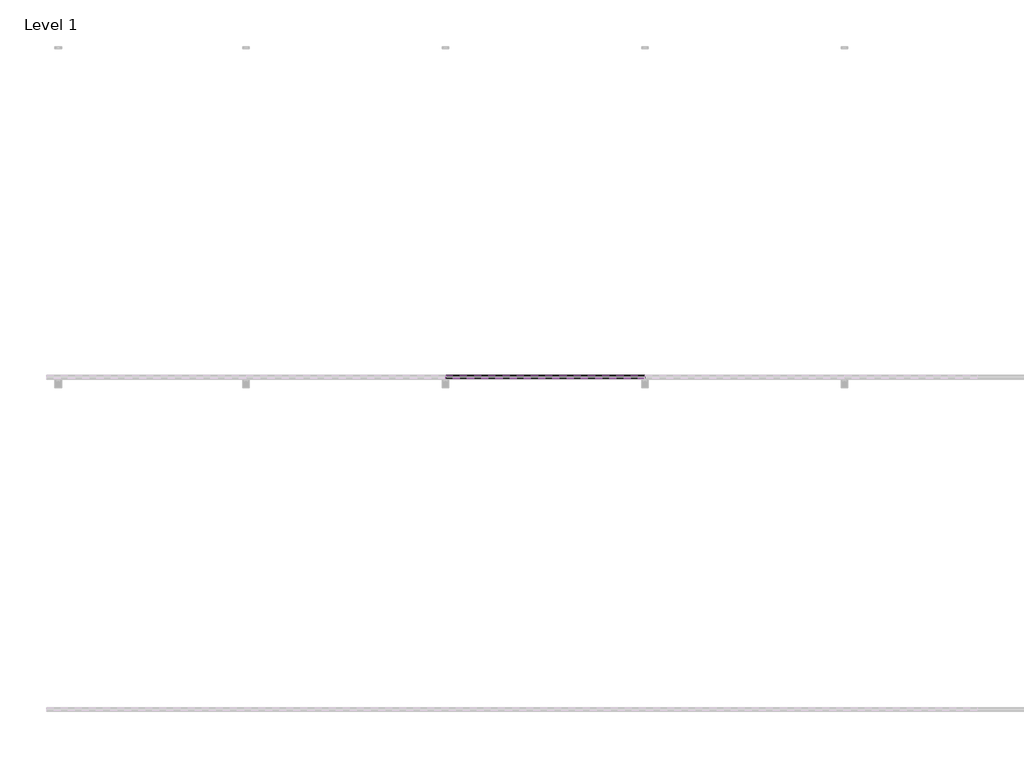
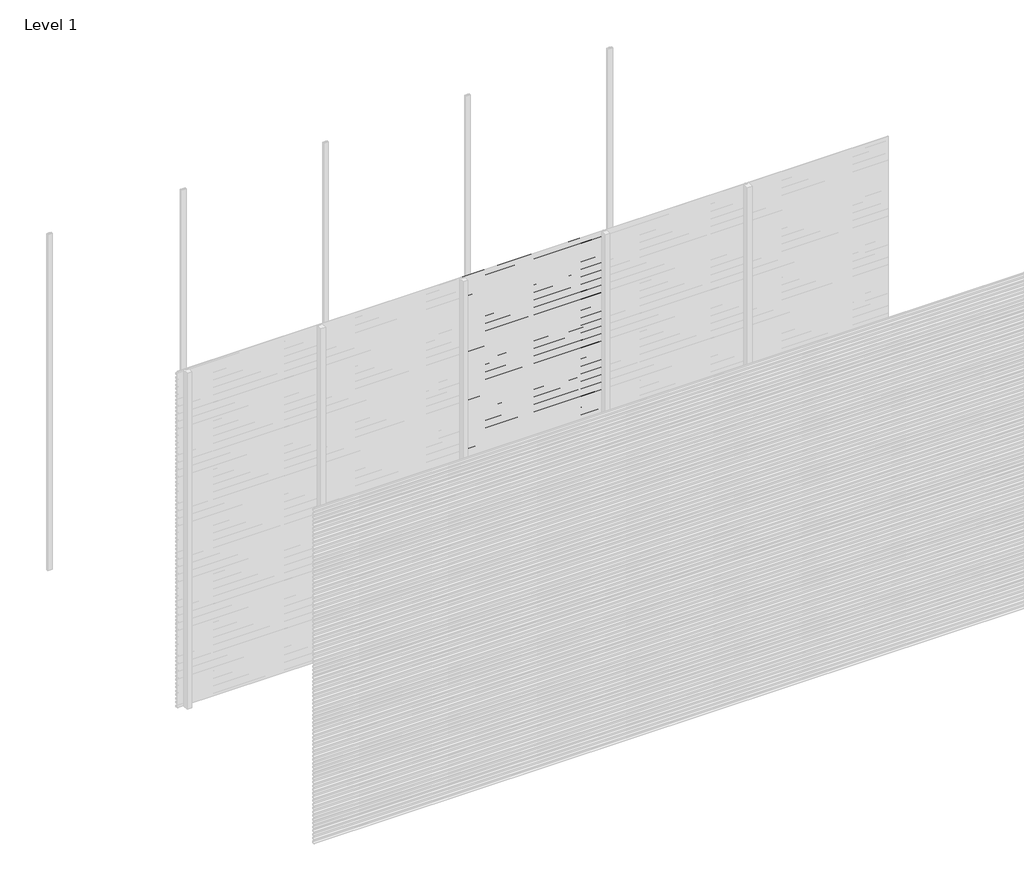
# One storey, part 37 of 77: 72 proxies.
"""IFC4 building model written with IfcOpenShell, lengths in millimetres."""

import ifcopenshell
import ifcopenshell.guid

model = None  # the IFC model being written
_history = None  # IfcOwnerHistory: only IFC2X3 demands one
_inside = {}  # id of a spatial element -> (the spatial element, [elements in it])
_under = {}  # id of a project, library or spatial element -> (it, [spatial elements below it])
_declared = {}  # id of a project -> (the project, [libraries it declares])
_typed = {}  # id of a type object -> (the type object, [elements of that type])
_made_of = {}  # id of a material, layer set ... -> (it, [elements and type objects made of it])


def new_model(schema):
    """Start an empty IFC model of exactly this schema.

    Asked for "IFC4X3", IfcOpenShell would pick the latest addendum, in which some entities
    have other attributes; the version numbers below select the first issue.
    IFC2X3 requires an IfcOwnerHistory on every rooted entity: one is made here for all.
    """
    global model, _history
    if schema == "IFC4X3":
        model = ifcopenshell.file(schema_version=(4, 3, 0, 0))
    else:
        model = ifcopenshell.file(schema=schema)
    _inside.clear()
    _under.clear()
    _declared.clear()
    _typed.clear()
    _made_of.clear()
    _history = None
    if model.schema == "IFC2X3":
        org = make("IfcOrganization", Name="unknown")
        user = make(
            "IfcPersonAndOrganization",
            ThePerson=make("IfcPerson", FamilyName="unknown"),
            TheOrganization=org,
        )
        app = make(
            "IfcApplication",
            ApplicationDeveloper=org,
            Version="unknown",
            ApplicationFullName="unknown",
            ApplicationIdentifier="unknown",
        )
        _history = make(
            "IfcOwnerHistory",
            OwningUser=user,
            OwningApplication=app,
            ChangeAction="ADDED",
            CreationDate=0,
        )
    return model


def make(cls, **values):
    """One entity of the class cls with the attributes given. An attribute that is None is left unset."""
    return model.create_entity(
        cls, **{name: value for name, value in values.items() if value is not None}
    )


def rooted(cls, **values):
    """An entity with a GlobalId (a new one), such as an element, a storey or a relation."""
    return make(cls, GlobalId=ifcopenshell.guid.new(), OwnerHistory=_history, **values)


def si_unit(unit_type, name, prefix=None):
    """IfcSIUnit, for example si_unit("LENGTHUNIT", "METRE", prefix="MILLI")."""
    return make("IfcSIUnit", UnitType=unit_type, Prefix=prefix, Name=name)


def assignment(units):
    """IfcUnitAssignment: the units of a project."""
    return None if units is None else make("IfcUnitAssignment", Units=units)


def point(xyz):
    """IfcCartesianPoint."""
    return None if xyz is None else make("IfcCartesianPoint", Coordinates=xyz)


def direction(xyz):
    """IfcDirection."""
    return None if xyz is None else make("IfcDirection", DirectionRatios=xyz)


def frame(location, z_axis=None, x_axis=None):
    """IfcAxis2Placement3D, a coordinate frame: its origin and axes. An axis left out is left unset."""
    return make(
        "IfcAxis2Placement3D",
        Location=point(location),
        Axis=direction(z_axis),
        RefDirection=direction(x_axis),
    )


def origin():
    """The frame at (0, 0, 0) with its axes left unset."""
    return frame((0.0, 0.0, 0.0))


def place(relative_to, where):
    """IfcLocalPlacement: puts the frame where relative to a parent placement (None: the world)."""
    return make(
        "IfcLocalPlacement", PlacementRelTo=relative_to, RelativePlacement=where
    )


def context(
    kind, dimensions, precision=None, world=None, true_north=None, identifier=None
):
    """IfcGeometricRepresentationContext, for example the 3D "Model" context."""
    return make(
        "IfcGeometricRepresentationContext",
        ContextIdentifier=identifier,
        ContextType=kind,
        CoordinateSpaceDimension=dimensions,
        Precision=precision,
        WorldCoordinateSystem=world,
        TrueNorth=true_north,
    )


def project(units=None, contexts=None):
    """IfcProject with its units and contexts."""
    return rooted(
        "IfcProject",
        Name="project",
        RepresentationContexts=contexts,
        UnitsInContext=assignment(units),
    )


def spatial(cls, under=None, at=None, **own):
    """A site, building, storey or space (cls), placed at a placement, below another one or the project."""
    s = rooted(cls, ObjectPlacement=at, **own)
    if under is not None:
        _under.setdefault(under.id(), (under, []))[1].append(s)
    return s


def polyline(points):
    """IfcPolyline through the points."""
    return make("IfcPolyline", Points=[point(p) for p in points])


def outline(outer, holes=None, kind="AREA"):
    """IfcArbitraryClosedProfileDef: a profile drawn as a closed curve; with holes, ...WithVoids."""
    if holes is None:
        return make("IfcArbitraryClosedProfileDef", ProfileType=kind, OuterCurve=outer)
    return make(
        "IfcArbitraryProfileDefWithVoids",
        ProfileType=kind,
        OuterCurve=outer,
        InnerCurves=holes,
    )


def extrude(swept, where, along, depth):
    """IfcExtrudedAreaSolid: the profile swept, set in the frame where, extruded along a direction by depth."""
    return make(
        "IfcExtrudedAreaSolid",
        SweptArea=swept,
        Position=where,
        ExtrudedDirection=direction(along),
        Depth=depth,
    )


def shape(context_of_items, identifier, shape_type, items):
    """IfcShapeRepresentation: the items that make up one representation, for example the "Body"."""
    return make(
        "IfcShapeRepresentation",
        ContextOfItems=context_of_items,
        RepresentationIdentifier=identifier,
        RepresentationType=shape_type,
        Items=items,
    )


def made_of(thing, what):
    """Note that an element or type object is made of a material, layer set ...; save() writes the relation."""
    if what is not None:
        _made_of.setdefault(what.id(), (what, []))[1].append(thing)
    return thing


def element(
    cls,
    number,
    at=None,
    inside=None,
    cuts=None,
    type_object=None,
    material=None,
    context=None,
    identifier="Body",
    shape_type=None,
    held_by="IfcProductDefinitionShape",
    body=None,
    shapes=None,
    **own,
):
    """One element of the class cls, such as IfcWall. Its Tag is "e" and its number.

    at: its placement. inside: the storey or other place that contains it. cuts: it is an
    opening in that element (IfcRelVoidsElement). A single representation is given by context,
    identifier, shape_type and body (its items); several are given by shapes. held_by: the class
    of the entity that holds the representations. save() writes the other relations.
    """
    e = rooted(cls, Tag="e%d" % number, ObjectPlacement=at, **own)
    if body is not None:
        shapes = [shape(context, identifier, shape_type, body)]
    if shapes is not None:
        e.Representation = make(held_by, Representations=shapes)
    if inside is not None:
        _inside.setdefault(inside.id(), (inside, []))[1].append(e)
    if cuts is not None:
        rooted(
            "IfcRelVoidsElement", RelatingBuildingElement=cuts, RelatedOpeningElement=e
        )
    if type_object is not None:
        _typed.setdefault(type_object.id(), (type_object, []))[1].append(e)
    return made_of(e, material)


def aggregate(whole, parts):
    """IfcRelAggregates: a whole, such as a stair, and the parts it consists of."""
    return rooted("IfcRelAggregates", RelatingObject=whole, RelatedObjects=parts)


def save(model, path):
    """Write the relations noted so far, then the file.

    IfcRelAggregates (storeys below a building ...), IfcRelContainedInSpatialStructure (elements
    in a storey), IfcRelDefinesByType, IfcRelAssociatesMaterial and IfcRelDeclares: one each for
    every whole, place, type object, material and project.
    """
    for whole, parts in _under.values():
        aggregate(whole, parts)
    for where, things in _inside.values():
        rooted(
            "IfcRelContainedInSpatialStructure",
            RelatedElements=things,
            RelatingStructure=where,
        )
    for kind, things in _typed.values():
        rooted("IfcRelDefinesByType", RelatedObjects=things, RelatingType=kind)
    for what, things in _made_of.values():
        rooted("IfcRelAssociatesMaterial", RelatedObjects=things, RelatingMaterial=what)
    for by, libraries in _declared.values():
        rooted("IfcRelDeclares", RelatingContext=by, RelatedDefinitions=libraries)
    model.write(path)


model = new_model("IFC4")

# Units and contexts
model_context = context("Model", 3, world=origin())
ifc_project = project(units=[si_unit("LENGTHUNIT", "METRE", prefix="MILLI")], contexts=[model_context])

# Site, building, storey
site = spatial("IfcSite", under=ifc_project)
building = spatial("IfcBuilding", under=site)
storey = spatial("IfcBuildingStorey", under=building, Name="Level 1", Elevation=0.0)

# Proxies
placement = place(None, origin())
element("IfcBuildingElementProxy", 1, Name="Wall Sweeps", at=placement, inside=storey, context=model_context, shape_type="SweptSolid", body=[
    extrude(outline(polyline([(-29978.6, 408.4359887), (-29998.0, 419.6366691), (-29998.0, 432.9), (-29997.0, 432.9), (-29997.0, 420.2191057), (-29977.6, 409.0185105), (-29977.6, 395.4185105), (-29978.6, 396.9953129), (-29978.6, 402.8032062), (-29995.9773817, 394.7), (-29996.4, 395.6063078), (-29978.6, 403.9065841), (-29978.6, 408.4359887)])), frame((1200.0, 0.0, 0.0), z_axis=(1.0, 0.0, 0.0), x_axis=(0.0, 1.0, 0.0)), (0.0, 0.0, 1.0), 1200.0),
])
element("IfcBuildingElementProxy", 2, Name="Wall Sweeps", at=placement, inside=storey, context=model_context, shape_type="SweptSolid", body=[
    extrude(outline(polyline([(-29978.6, 375.1359887), (-29998.0, 386.3366691), (-29998.0, 399.6), (-29997.0, 399.6), (-29997.0, 386.9191057), (-29977.6, 375.7185105), (-29977.6, 362.1185105), (-29978.6, 363.6953129), (-29978.6, 369.5032062), (-29995.9773817, 361.4), (-29996.4, 362.3063078), (-29978.6, 370.6065841), (-29978.6, 375.1359887)])), frame((1200.0, 0.0, 0.0), z_axis=(1.0, 0.0, 0.0), x_axis=(0.0, 1.0, 0.0)), (0.0, 0.0, 1.0), 1200.0),
])
element("IfcBuildingElementProxy", 3, Name="Wall Sweeps", at=placement, inside=storey, context=model_context, shape_type="SweptSolid", body=[
    extrude(outline(polyline([(-29978.6, 341.8359887), (-29998.0, 353.0366691), (-29998.0, 366.3), (-29997.0, 366.3), (-29997.0, 353.6191057), (-29977.6, 342.4185105), (-29977.6, 328.8185105), (-29978.6, 330.3953129), (-29978.6, 336.2032062), (-29995.9773817, 328.1), (-29996.4, 329.0063078), (-29978.6, 337.3065841), (-29978.6, 341.8359887)])), frame((1200.0, 0.0, 0.0), z_axis=(1.0, 0.0, 0.0), x_axis=(0.0, 1.0, 0.0)), (0.0, 0.0, 1.0), 1200.0),
])
element("IfcBuildingElementProxy", 4, Name="Wall Sweeps", at=placement, inside=storey, context=model_context, shape_type="SweptSolid", body=[
    extrude(outline(polyline([(-29978.6, 308.5359887), (-29998.0, 319.7366691), (-29998.0, 333.0), (-29997.0, 333.0), (-29997.0, 320.3191057), (-29977.6, 309.1185105), (-29977.6, 295.5185105), (-29978.6, 297.0953129), (-29978.6, 302.9032062), (-29995.9773817, 294.8), (-29996.4, 295.7063078), (-29978.6, 304.0065841), (-29978.6, 308.5359887)])), frame((1200.0, 0.0, 0.0), z_axis=(1.0, 0.0, 0.0), x_axis=(0.0, 1.0, 0.0)), (0.0, 0.0, 1.0), 1200.0),
])
element("IfcBuildingElementProxy", 5, Name="Wall Sweeps", at=placement, inside=storey, context=model_context, shape_type="SweptSolid", body=[
    extrude(outline(polyline([(-29978.6, 275.2359887), (-29998.0, 286.4366691), (-29998.0, 299.7), (-29997.0, 299.7), (-29997.0, 287.0191057), (-29977.6, 275.8185105), (-29977.6, 262.2185105), (-29978.6, 263.7953129), (-29978.6, 269.6032062), (-29995.9773817, 261.5), (-29996.4, 262.4063078), (-29978.6, 270.7065841), (-29978.6, 275.2359887)])), frame((1200.0, 0.0, 0.0), z_axis=(1.0, 0.0, 0.0), x_axis=(0.0, 1.0, 0.0)), (0.0, 0.0, 1.0), 1200.0),
])
element("IfcBuildingElementProxy", 6, Name="Wall Sweeps", at=placement, inside=storey, context=model_context, shape_type="SweptSolid", body=[
    extrude(outline(polyline([(-29978.6, 241.9359887), (-29998.0, 253.1366691), (-29998.0, 266.4), (-29997.0, 266.4), (-29997.0, 253.7191057), (-29977.6, 242.5185105), (-29977.6, 228.9185105), (-29978.6, 230.4953129), (-29978.6, 236.3032062), (-29995.9773817, 228.2), (-29996.4, 229.1063078), (-29978.6, 237.4065841), (-29978.6, 241.9359887)])), frame((1200.0, 0.0, 0.0), z_axis=(1.0, 0.0, 0.0), x_axis=(0.0, 1.0, 0.0)), (0.0, 0.0, 1.0), 1200.0),
])
element("IfcBuildingElementProxy", 7, Name="Wall Sweeps", at=placement, inside=storey, context=model_context, shape_type="SweptSolid", body=[
    extrude(outline(polyline([(-29978.6, 208.6359887), (-29998.0, 219.8366691), (-29998.0, 233.1), (-29997.0, 233.1), (-29997.0, 220.4191057), (-29977.6, 209.2185105), (-29977.6, 195.6185105), (-29978.6, 197.1953129), (-29978.6, 203.0032062), (-29995.9773817, 194.9), (-29996.4, 195.8063078), (-29978.6, 204.1065841), (-29978.6, 208.6359887)])), frame((1200.0, 0.0, 0.0), z_axis=(1.0, 0.0, 0.0), x_axis=(0.0, 1.0, 0.0)), (0.0, 0.0, 1.0), 1200.0),
])
element("IfcBuildingElementProxy", 8, Name="Wall Sweeps", at=placement, inside=storey, context=model_context, shape_type="SweptSolid", body=[
    extrude(outline(polyline([(-29978.6, 175.3359887), (-29998.0, 186.5366691), (-29998.0, 199.8), (-29997.0, 199.8), (-29997.0, 187.1191057), (-29977.6, 175.9185105), (-29977.6, 162.3185105), (-29978.6, 163.8953129), (-29978.6, 169.7032062), (-29995.9773817, 161.6), (-29996.4, 162.5063078), (-29978.6, 170.8065841), (-29978.6, 175.3359887)])), frame((1200.0, 0.0, 0.0), z_axis=(1.0, 0.0, 0.0), x_axis=(0.0, 1.0, 0.0)), (0.0, 0.0, 1.0), 1200.0),
])
element("IfcBuildingElementProxy", 9, Name="Wall Sweeps", at=placement, inside=storey, context=model_context, shape_type="SweptSolid", body=[
    extrude(outline(polyline([(-29978.6, 142.0359887), (-29998.0, 153.2366691), (-29998.0, 166.5), (-29997.0, 166.5), (-29997.0, 153.8191057), (-29977.6, 142.6185105), (-29977.6, 129.0185105), (-29978.6, 130.5953129), (-29978.6, 136.4032062), (-29995.9773817, 128.3), (-29996.4, 129.2063078), (-29978.6, 137.5065841), (-29978.6, 142.0359887)])), frame((1200.0, 0.0, 0.0), z_axis=(1.0, 0.0, 0.0), x_axis=(0.0, 1.0, 0.0)), (0.0, 0.0, 1.0), 1200.0),
])
element("IfcBuildingElementProxy", 10, Name="Wall Sweeps", at=placement, inside=storey, context=model_context, shape_type="SweptSolid", body=[
    extrude(outline(polyline([(-29978.6, 108.7359887), (-29998.0, 119.9366691), (-29998.0, 133.2), (-29997.0, 133.2), (-29997.0, 120.5191057), (-29977.6, 109.3185105), (-29977.6, 95.7185105), (-29978.6, 97.2953129), (-29978.6, 103.1032062), (-29995.9773817, 95.0), (-29996.4, 95.9063078), (-29978.6, 104.2065841), (-29978.6, 108.7359887)])), frame((1200.0, 0.0, 0.0), z_axis=(1.0, 0.0, 0.0), x_axis=(0.0, 1.0, 0.0)), (0.0, 0.0, 1.0), 1200.0),
])
element("IfcBuildingElementProxy", 11, Name="Wall Sweeps", at=placement, inside=storey, context=model_context, shape_type="SweptSolid", body=[
    extrude(outline(polyline([(-29978.6, 75.4359887), (-29998.0, 86.6366691), (-29998.0, 99.9), (-29997.0, 99.9), (-29997.0, 87.2191057), (-29977.6, 76.0185105), (-29977.6, 62.4185105), (-29978.6, 63.9953129), (-29978.6, 69.8032062), (-29995.9773817, 61.7), (-29996.4, 62.6063078), (-29978.6, 70.9065841), (-29978.6, 75.4359887)])), frame((1200.0, 0.0, 0.0), z_axis=(1.0, 0.0, 0.0), x_axis=(0.0, 1.0, 0.0)), (0.0, 0.0, 1.0), 1200.0),
])
element("IfcBuildingElementProxy", 12, Name="Wall Sweeps", at=placement, inside=storey, context=model_context, shape_type="SweptSolid", body=[
    extrude(outline(polyline([(-29978.6, 42.1359887), (-29998.0, 53.3366691), (-29998.0, 66.6), (-29997.0, 66.6), (-29997.0, 53.9191057), (-29977.6, 42.7185105), (-29977.6, 29.1185105), (-29978.6, 30.6953129), (-29978.6, 36.5032062), (-29995.9773817, 28.4), (-29996.4, 29.3063078), (-29978.6, 37.6065841), (-29978.6, 42.1359887)])), frame((1200.0, 0.0, 0.0), z_axis=(1.0, 0.0, 0.0), x_axis=(0.0, 1.0, 0.0)), (0.0, 0.0, 1.0), 1200.0),
])
element("IfcBuildingElementProxy", 13, Name="Wall Sweeps", at=placement, inside=storey, context=model_context, shape_type="SweptSolid", body=[
    extrude(outline(polyline([(-29978.6, 8.8359887), (-29998.0, 20.0366691), (-29998.0, 33.3), (-29997.0, 33.3), (-29997.0, 20.6191057), (-29977.6, 9.4185105), (-29977.6, -4.1814895), (-29978.6, -2.6046871), (-29978.6, 3.2032062), (-29995.9773817, -4.9), (-29996.4, -3.9936922), (-29978.6, 4.3065841), (-29978.6, 8.8359887)])), frame((1200.0, 0.0, 0.0), z_axis=(1.0, 0.0, 0.0), x_axis=(0.0, 1.0, 0.0)), (0.0, 0.0, 1.0), 1200.0),
])
element("IfcBuildingElementProxy", 14, Name="Wall Sweeps", at=placement, inside=storey, context=model_context, shape_type="SweptSolid", body=[
    extrude(outline(polyline([(-29978.6, 2972.5359887), (-29998.0, 2983.7366691), (-29998.0, 2997.0), (-29997.0, 2997.0), (-29997.0, 2984.3191057), (-29977.6, 2973.1185105), (-29977.6, 2959.5185105), (-29978.6, 2961.0953129), (-29978.6, 2966.9032062), (-29995.9773817, 2958.8), (-29996.4, 2959.7063078), (-29978.6, 2968.0065841), (-29978.6, 2972.5359887)])), frame((2400.0, 0.0, 0.0), z_axis=(1.0, 0.0, 0.0), x_axis=(0.0, 1.0, 0.0)), (0.0, 0.0, 1.0), 1200.0),
])
element("IfcBuildingElementProxy", 15, Name="Wall Sweeps", at=placement, inside=storey, context=model_context, shape_type="SweptSolid", body=[
    extrude(outline(polyline([(-29978.6, 2939.2359887), (-29998.0, 2950.4366691), (-29998.0, 2963.7), (-29997.0, 2963.7), (-29997.0, 2951.0191057), (-29977.6, 2939.8185105), (-29977.6, 2926.2185105), (-29978.6, 2927.7953129), (-29978.6, 2933.6032062), (-29995.9773817, 2925.5), (-29996.4, 2926.4063078), (-29978.6, 2934.7065841), (-29978.6, 2939.2359887)])), frame((2400.0, 0.0, 0.0), z_axis=(1.0, 0.0, 0.0), x_axis=(0.0, 1.0, 0.0)), (0.0, 0.0, 1.0), 1200.0),
])
element("IfcBuildingElementProxy", 16, Name="Wall Sweeps", at=placement, inside=storey, context=model_context, shape_type="SweptSolid", body=[
    extrude(outline(polyline([(-29978.6, 2905.9359887), (-29998.0, 2917.1366691), (-29998.0, 2930.4), (-29997.0, 2930.4), (-29997.0, 2917.7191057), (-29977.6, 2906.5185105), (-29977.6, 2892.9185105), (-29978.6, 2894.4953129), (-29978.6, 2900.3032062), (-29995.9773817, 2892.2), (-29996.4, 2893.1063078), (-29978.6, 2901.4065841), (-29978.6, 2905.9359887)])), frame((2400.0, 0.0, 0.0), z_axis=(1.0, 0.0, 0.0), x_axis=(0.0, 1.0, 0.0)), (0.0, 0.0, 1.0), 1200.0),
])
element("IfcBuildingElementProxy", 17, Name="Wall Sweeps", at=placement, inside=storey, context=model_context, shape_type="SweptSolid", body=[
    extrude(outline(polyline([(-29978.6, 2872.6359887), (-29998.0, 2883.8366691), (-29998.0, 2897.1), (-29997.0, 2897.1), (-29997.0, 2884.4191057), (-29977.6, 2873.2185105), (-29977.6, 2859.6185105), (-29978.6, 2861.1953129), (-29978.6, 2867.0032062), (-29995.9773817, 2858.9), (-29996.4, 2859.8063078), (-29978.6, 2868.1065841), (-29978.6, 2872.6359887)])), frame((2400.0, 0.0, 0.0), z_axis=(1.0, 0.0, 0.0), x_axis=(0.0, 1.0, 0.0)), (0.0, 0.0, 1.0), 1200.0),
])
element("IfcBuildingElementProxy", 18, Name="Wall Sweeps", at=placement, inside=storey, context=model_context, shape_type="SweptSolid", body=[
    extrude(outline(polyline([(-29978.6, 2839.3359887), (-29998.0, 2850.5366691), (-29998.0, 2863.8), (-29997.0, 2863.8), (-29997.0, 2851.1191057), (-29977.6, 2839.9185105), (-29977.6, 2826.3185105), (-29978.6, 2827.8953129), (-29978.6, 2833.7032062), (-29995.9773817, 2825.6), (-29996.4, 2826.5063078), (-29978.6, 2834.8065841), (-29978.6, 2839.3359887)])), frame((2400.0, 0.0, 0.0), z_axis=(1.0, 0.0, 0.0), x_axis=(0.0, 1.0, 0.0)), (0.0, 0.0, 1.0), 1200.0),
])
element("IfcBuildingElementProxy", 19, Name="Wall Sweeps", at=placement, inside=storey, context=model_context, shape_type="SweptSolid", body=[
    extrude(outline(polyline([(-29978.6, 2806.0359887), (-29998.0, 2817.2366691), (-29998.0, 2830.5), (-29997.0, 2830.5), (-29997.0, 2817.8191057), (-29977.6, 2806.6185105), (-29977.6, 2793.0185105), (-29978.6, 2794.5953129), (-29978.6, 2800.4032062), (-29995.9773817, 2792.3), (-29996.4, 2793.2063078), (-29978.6, 2801.5065841), (-29978.6, 2806.0359887)])), frame((2400.0, 0.0, 0.0), z_axis=(1.0, 0.0, 0.0), x_axis=(0.0, 1.0, 0.0)), (0.0, 0.0, 1.0), 1200.0),
])
element("IfcBuildingElementProxy", 20, Name="Wall Sweeps", at=placement, inside=storey, context=model_context, shape_type="SweptSolid", body=[
    extrude(outline(polyline([(-29978.6, 2772.7359887), (-29998.0, 2783.9366691), (-29998.0, 2797.2), (-29997.0, 2797.2), (-29997.0, 2784.5191057), (-29977.6, 2773.3185105), (-29977.6, 2759.7185105), (-29978.6, 2761.2953129), (-29978.6, 2767.1032062), (-29995.9773817, 2759.0), (-29996.4, 2759.9063078), (-29978.6, 2768.2065841), (-29978.6, 2772.7359887)])), frame((2400.0, 0.0, 0.0), z_axis=(1.0, 0.0, 0.0), x_axis=(0.0, 1.0, 0.0)), (0.0, 0.0, 1.0), 1200.0),
])
element("IfcBuildingElementProxy", 21, Name="Wall Sweeps", at=placement, inside=storey, context=model_context, shape_type="SweptSolid", body=[
    extrude(outline(polyline([(-29978.6, 2739.4359887), (-29998.0, 2750.6366691), (-29998.0, 2763.9), (-29997.0, 2763.9), (-29997.0, 2751.2191057), (-29977.6, 2740.0185105), (-29977.6, 2726.4185105), (-29978.6, 2727.9953129), (-29978.6, 2733.8032062), (-29995.9773817, 2725.7), (-29996.4, 2726.6063078), (-29978.6, 2734.9065841), (-29978.6, 2739.4359887)])), frame((2400.0, 0.0, 0.0), z_axis=(1.0, 0.0, 0.0), x_axis=(0.0, 1.0, 0.0)), (0.0, 0.0, 1.0), 1200.0),
])
element("IfcBuildingElementProxy", 22, Name="Wall Sweeps", at=placement, inside=storey, context=model_context, shape_type="SweptSolid", body=[
    extrude(outline(polyline([(-29978.6, 2706.1359887), (-29998.0, 2717.3366691), (-29998.0, 2730.6), (-29997.0, 2730.6), (-29997.0, 2717.9191057), (-29977.6, 2706.7185105), (-29977.6, 2693.1185105), (-29978.6, 2694.6953129), (-29978.6, 2700.5032062), (-29995.9773817, 2692.4), (-29996.4, 2693.3063078), (-29978.6, 2701.6065841), (-29978.6, 2706.1359887)])), frame((2400.0, 0.0, 0.0), z_axis=(1.0, 0.0, 0.0), x_axis=(0.0, 1.0, 0.0)), (0.0, 0.0, 1.0), 1200.0),
])
element("IfcBuildingElementProxy", 23, Name="Wall Sweeps", at=placement, inside=storey, context=model_context, shape_type="SweptSolid", body=[
    extrude(outline(polyline([(-29978.6, 2672.8359887), (-29998.0, 2684.0366691), (-29998.0, 2697.3), (-29997.0, 2697.3), (-29997.0, 2684.6191057), (-29977.6, 2673.4185105), (-29977.6, 2659.8185105), (-29978.6, 2661.3953129), (-29978.6, 2667.2032062), (-29995.9773817, 2659.1), (-29996.4, 2660.0063078), (-29978.6, 2668.3065841), (-29978.6, 2672.8359887)])), frame((2400.0, 0.0, 0.0), z_axis=(1.0, 0.0, 0.0), x_axis=(0.0, 1.0, 0.0)), (0.0, 0.0, 1.0), 1200.0),
])
element("IfcBuildingElementProxy", 24, Name="Wall Sweeps", at=placement, inside=storey, context=model_context, shape_type="SweptSolid", body=[
    extrude(outline(polyline([(-29978.6, 2639.5359887), (-29998.0, 2650.7366691), (-29998.0, 2664.0), (-29997.0, 2664.0), (-29997.0, 2651.3191057), (-29977.6, 2640.1185105), (-29977.6, 2626.5185105), (-29978.6, 2628.0953129), (-29978.6, 2633.9032062), (-29995.9773817, 2625.8), (-29996.4, 2626.7063078), (-29978.6, 2635.0065841), (-29978.6, 2639.5359887)])), frame((2400.0, 0.0, 0.0), z_axis=(1.0, 0.0, 0.0), x_axis=(0.0, 1.0, 0.0)), (0.0, 0.0, 1.0), 1200.0),
])
element("IfcBuildingElementProxy", 25, Name="Wall Sweeps", at=placement, inside=storey, context=model_context, shape_type="SweptSolid", body=[
    extrude(outline(polyline([(-29978.6, 2606.2359887), (-29998.0, 2617.4366691), (-29998.0, 2630.7), (-29997.0, 2630.7), (-29997.0, 2618.0191057), (-29977.6, 2606.8185105), (-29977.6, 2593.2185105), (-29978.6, 2594.7953129), (-29978.6, 2600.6032062), (-29995.9773817, 2592.5), (-29996.4, 2593.4063078), (-29978.6, 2601.7065841), (-29978.6, 2606.2359887)])), frame((2400.0, 0.0, 0.0), z_axis=(1.0, 0.0, 0.0), x_axis=(0.0, 1.0, 0.0)), (0.0, 0.0, 1.0), 1200.0),
])
element("IfcBuildingElementProxy", 26, Name="Wall Sweeps", at=placement, inside=storey, context=model_context, shape_type="SweptSolid", body=[
    extrude(outline(polyline([(-29978.6, 2572.9359887), (-29998.0, 2584.1366691), (-29998.0, 2597.4), (-29997.0, 2597.4), (-29997.0, 2584.7191057), (-29977.6, 2573.5185105), (-29977.6, 2559.9185105), (-29978.6, 2561.4953129), (-29978.6, 2567.3032062), (-29995.9773817, 2559.2), (-29996.4, 2560.1063078), (-29978.6, 2568.4065841), (-29978.6, 2572.9359887)])), frame((2400.0, 0.0, 0.0), z_axis=(1.0, 0.0, 0.0), x_axis=(0.0, 1.0, 0.0)), (0.0, 0.0, 1.0), 1200.0),
])
element("IfcBuildingElementProxy", 27, Name="Wall Sweeps", at=placement, inside=storey, context=model_context, shape_type="SweptSolid", body=[
    extrude(outline(polyline([(-29978.6, 2539.6359887), (-29998.0, 2550.8366691), (-29998.0, 2564.1), (-29997.0, 2564.1), (-29997.0, 2551.4191057), (-29977.6, 2540.2185105), (-29977.6, 2526.6185105), (-29978.6, 2528.1953129), (-29978.6, 2534.0032062), (-29995.9773817, 2525.9), (-29996.4, 2526.8063078), (-29978.6, 2535.1065841), (-29978.6, 2539.6359887)])), frame((2400.0, 0.0, 0.0), z_axis=(1.0, 0.0, 0.0), x_axis=(0.0, 1.0, 0.0)), (0.0, 0.0, 1.0), 1200.0),
])
element("IfcBuildingElementProxy", 28, Name="Wall Sweeps", at=placement, inside=storey, context=model_context, shape_type="SweptSolid", body=[
    extrude(outline(polyline([(-29978.6, 2506.3359887), (-29998.0, 2517.5366691), (-29998.0, 2530.8), (-29997.0, 2530.8), (-29997.0, 2518.1191057), (-29977.6, 2506.9185105), (-29977.6, 2493.3185105), (-29978.6, 2494.8953129), (-29978.6, 2500.7032062), (-29995.9773817, 2492.6), (-29996.4, 2493.5063078), (-29978.6, 2501.8065841), (-29978.6, 2506.3359887)])), frame((2400.0, 0.0, 0.0), z_axis=(1.0, 0.0, 0.0), x_axis=(0.0, 1.0, 0.0)), (0.0, 0.0, 1.0), 1200.0),
])
element("IfcBuildingElementProxy", 29, Name="Wall Sweeps", at=placement, inside=storey, context=model_context, shape_type="SweptSolid", body=[
    extrude(outline(polyline([(-29978.6, 2473.0359887), (-29998.0, 2484.2366691), (-29998.0, 2497.5), (-29997.0, 2497.5), (-29997.0, 2484.8191057), (-29977.6, 2473.6185105), (-29977.6, 2460.0185105), (-29978.6, 2461.5953129), (-29978.6, 2467.4032062), (-29995.9773817, 2459.3), (-29996.4, 2460.2063078), (-29978.6, 2468.5065841), (-29978.6, 2473.0359887)])), frame((2400.0, 0.0, 0.0), z_axis=(1.0, 0.0, 0.0), x_axis=(0.0, 1.0, 0.0)), (0.0, 0.0, 1.0), 1200.0),
])
element("IfcBuildingElementProxy", 30, Name="Wall Sweeps", at=placement, inside=storey, context=model_context, shape_type="SweptSolid", body=[
    extrude(outline(polyline([(-29978.6, 2439.7359887), (-29998.0, 2450.9366691), (-29998.0, 2464.2), (-29997.0, 2464.2), (-29997.0, 2451.5191057), (-29977.6, 2440.3185105), (-29977.6, 2426.7185105), (-29978.6, 2428.2953129), (-29978.6, 2434.1032062), (-29995.9773817, 2426.0), (-29996.4, 2426.9063078), (-29978.6, 2435.2065841), (-29978.6, 2439.7359887)])), frame((2400.0, 0.0, 0.0), z_axis=(1.0, 0.0, 0.0), x_axis=(0.0, 1.0, 0.0)), (0.0, 0.0, 1.0), 1200.0),
])
element("IfcBuildingElementProxy", 31, Name="Wall Sweeps", at=placement, inside=storey, context=model_context, shape_type="SweptSolid", body=[
    extrude(outline(polyline([(-29978.6, 2406.4359887), (-29998.0, 2417.6366691), (-29998.0, 2430.9), (-29997.0, 2430.9), (-29997.0, 2418.2191057), (-29977.6, 2407.0185105), (-29977.6, 2393.4185105), (-29978.6, 2394.9953129), (-29978.6, 2400.8032062), (-29995.9773817, 2392.7), (-29996.4, 2393.6063078), (-29978.6, 2401.9065841), (-29978.6, 2406.4359887)])), frame((2400.0, 0.0, 0.0), z_axis=(1.0, 0.0, 0.0), x_axis=(0.0, 1.0, 0.0)), (0.0, 0.0, 1.0), 1200.0),
])
element("IfcBuildingElementProxy", 32, Name="Wall Sweeps", at=placement, inside=storey, context=model_context, shape_type="SweptSolid", body=[
    extrude(outline(polyline([(-29978.6, 2373.1359887), (-29998.0, 2384.3366691), (-29998.0, 2397.6), (-29997.0, 2397.6), (-29997.0, 2384.9191057), (-29977.6, 2373.7185105), (-29977.6, 2360.1185105), (-29978.6, 2361.6953129), (-29978.6, 2367.5032062), (-29995.9773817, 2359.4), (-29996.4, 2360.3063078), (-29978.6, 2368.6065841), (-29978.6, 2373.1359887)])), frame((2400.0, 0.0, 0.0), z_axis=(1.0, 0.0, 0.0), x_axis=(0.0, 1.0, 0.0)), (0.0, 0.0, 1.0), 1200.0),
])
element("IfcBuildingElementProxy", 33, Name="Wall Sweeps", at=placement, inside=storey, context=model_context, shape_type="SweptSolid", body=[
    extrude(outline(polyline([(-29978.6, 2339.8359887), (-29998.0, 2351.0366691), (-29998.0, 2364.3), (-29997.0, 2364.3), (-29997.0, 2351.6191057), (-29977.6, 2340.4185105), (-29977.6, 2326.8185105), (-29978.6, 2328.3953129), (-29978.6, 2334.2032062), (-29995.9773817, 2326.1), (-29996.4, 2327.0063078), (-29978.6, 2335.3065841), (-29978.6, 2339.8359887)])), frame((2400.0, 0.0, 0.0), z_axis=(1.0, 0.0, 0.0), x_axis=(0.0, 1.0, 0.0)), (0.0, 0.0, 1.0), 1200.0),
])
element("IfcBuildingElementProxy", 34, Name="Wall Sweeps", at=placement, inside=storey, context=model_context, shape_type="SweptSolid", body=[
    extrude(outline(polyline([(-29978.6, 2306.5359887), (-29998.0, 2317.7366691), (-29998.0, 2331.0), (-29997.0, 2331.0), (-29997.0, 2318.3191057), (-29977.6, 2307.1185105), (-29977.6, 2293.5185105), (-29978.6, 2295.0953129), (-29978.6, 2300.9032062), (-29995.9773817, 2292.8), (-29996.4, 2293.7063078), (-29978.6, 2302.0065841), (-29978.6, 2306.5359887)])), frame((2400.0, 0.0, 0.0), z_axis=(1.0, 0.0, 0.0), x_axis=(0.0, 1.0, 0.0)), (0.0, 0.0, 1.0), 1200.0),
])
element("IfcBuildingElementProxy", 35, Name="Wall Sweeps", at=placement, inside=storey, context=model_context, shape_type="SweptSolid", body=[
    extrude(outline(polyline([(-29978.6, 2273.2359887), (-29998.0, 2284.4366691), (-29998.0, 2297.7), (-29997.0, 2297.7), (-29997.0, 2285.0191057), (-29977.6, 2273.8185105), (-29977.6, 2260.2185105), (-29978.6, 2261.7953129), (-29978.6, 2267.6032062), (-29995.9773817, 2259.5), (-29996.4, 2260.4063078), (-29978.6, 2268.7065841), (-29978.6, 2273.2359887)])), frame((2400.0, 0.0, 0.0), z_axis=(1.0, 0.0, 0.0), x_axis=(0.0, 1.0, 0.0)), (0.0, 0.0, 1.0), 1200.0),
])
element("IfcBuildingElementProxy", 36, Name="Wall Sweeps", at=placement, inside=storey, context=model_context, shape_type="SweptSolid", body=[
    extrude(outline(polyline([(-29978.6, 2239.9359887), (-29998.0, 2251.1366691), (-29998.0, 2264.4), (-29997.0, 2264.4), (-29997.0, 2251.7191057), (-29977.6, 2240.5185105), (-29977.6, 2226.9185105), (-29978.6, 2228.4953129), (-29978.6, 2234.3032062), (-29995.9773817, 2226.2), (-29996.4, 2227.1063078), (-29978.6, 2235.4065841), (-29978.6, 2239.9359887)])), frame((2400.0, 0.0, 0.0), z_axis=(1.0, 0.0, 0.0), x_axis=(0.0, 1.0, 0.0)), (0.0, 0.0, 1.0), 1200.0),
])
element("IfcBuildingElementProxy", 37, Name="Wall Sweeps", at=placement, inside=storey, context=model_context, shape_type="SweptSolid", body=[
    extrude(outline(polyline([(-29978.6, 2206.6359887), (-29998.0, 2217.8366691), (-29998.0, 2231.1), (-29997.0, 2231.1), (-29997.0, 2218.4191057), (-29977.6, 2207.2185105), (-29977.6, 2193.6185105), (-29978.6, 2195.1953129), (-29978.6, 2201.0032062), (-29995.9773817, 2192.9), (-29996.4, 2193.8063078), (-29978.6, 2202.1065841), (-29978.6, 2206.6359887)])), frame((2400.0, 0.0, 0.0), z_axis=(1.0, 0.0, 0.0), x_axis=(0.0, 1.0, 0.0)), (0.0, 0.0, 1.0), 1200.0),
])
element("IfcBuildingElementProxy", 38, Name="Wall Sweeps", at=placement, inside=storey, context=model_context, shape_type="SweptSolid", body=[
    extrude(outline(polyline([(-29978.6, 2173.3359887), (-29998.0, 2184.5366691), (-29998.0, 2197.8), (-29997.0, 2197.8), (-29997.0, 2185.1191057), (-29977.6, 2173.9185105), (-29977.6, 2160.3185105), (-29978.6, 2161.8953129), (-29978.6, 2167.7032062), (-29995.9773817, 2159.6), (-29996.4, 2160.5063078), (-29978.6, 2168.8065841), (-29978.6, 2173.3359887)])), frame((2400.0, 0.0, 0.0), z_axis=(1.0, 0.0, 0.0), x_axis=(0.0, 1.0, 0.0)), (0.0, 0.0, 1.0), 1200.0),
])
element("IfcBuildingElementProxy", 39, Name="Wall Sweeps", at=placement, inside=storey, context=model_context, shape_type="SweptSolid", body=[
    extrude(outline(polyline([(-29978.6, 2140.0359887), (-29998.0, 2151.2366691), (-29998.0, 2164.5), (-29997.0, 2164.5), (-29997.0, 2151.8191057), (-29977.6, 2140.6185105), (-29977.6, 2127.0185105), (-29978.6, 2128.5953129), (-29978.6, 2134.4032062), (-29995.9773817, 2126.3), (-29996.4, 2127.2063078), (-29978.6, 2135.5065841), (-29978.6, 2140.0359887)])), frame((2400.0, 0.0, 0.0), z_axis=(1.0, 0.0, 0.0), x_axis=(0.0, 1.0, 0.0)), (0.0, 0.0, 1.0), 1200.0),
])
element("IfcBuildingElementProxy", 40, Name="Wall Sweeps", at=placement, inside=storey, context=model_context, shape_type="SweptSolid", body=[
    extrude(outline(polyline([(-29978.6, 2106.7359887), (-29998.0, 2117.9366691), (-29998.0, 2131.2), (-29997.0, 2131.2), (-29997.0, 2118.5191057), (-29977.6, 2107.3185105), (-29977.6, 2093.7185105), (-29978.6, 2095.2953129), (-29978.6, 2101.1032062), (-29995.9773817, 2093.0), (-29996.4, 2093.9063078), (-29978.6, 2102.2065841), (-29978.6, 2106.7359887)])), frame((2400.0, 0.0, 0.0), z_axis=(1.0, 0.0, 0.0), x_axis=(0.0, 1.0, 0.0)), (0.0, 0.0, 1.0), 1200.0),
])
element("IfcBuildingElementProxy", 41, Name="Wall Sweeps", at=placement, inside=storey, context=model_context, shape_type="SweptSolid", body=[
    extrude(outline(polyline([(-29978.6, 2073.4359887), (-29998.0, 2084.6366691), (-29998.0, 2097.9), (-29997.0, 2097.9), (-29997.0, 2085.2191057), (-29977.6, 2074.0185105), (-29977.6, 2060.4185105), (-29978.6, 2061.9953129), (-29978.6, 2067.8032062), (-29995.9773817, 2059.7), (-29996.4, 2060.6063078), (-29978.6, 2068.9065841), (-29978.6, 2073.4359887)])), frame((2400.0, 0.0, 0.0), z_axis=(1.0, 0.0, 0.0), x_axis=(0.0, 1.0, 0.0)), (0.0, 0.0, 1.0), 1200.0),
])
element("IfcBuildingElementProxy", 42, Name="Wall Sweeps", at=placement, inside=storey, context=model_context, shape_type="SweptSolid", body=[
    extrude(outline(polyline([(-29978.6, 2040.1359887), (-29998.0, 2051.3366691), (-29998.0, 2064.6), (-29997.0, 2064.6), (-29997.0, 2051.9191057), (-29977.6, 2040.7185105), (-29977.6, 2027.1185105), (-29978.6, 2028.6953129), (-29978.6, 2034.5032062), (-29995.9773817, 2026.4), (-29996.4, 2027.3063078), (-29978.6, 2035.6065841), (-29978.6, 2040.1359887)])), frame((2400.0, 0.0, 0.0), z_axis=(1.0, 0.0, 0.0), x_axis=(0.0, 1.0, 0.0)), (0.0, 0.0, 1.0), 1200.0),
])
element("IfcBuildingElementProxy", 43, Name="Wall Sweeps", at=placement, inside=storey, context=model_context, shape_type="SweptSolid", body=[
    extrude(outline(polyline([(-29978.6, 2006.8359887), (-29998.0, 2018.0366691), (-29998.0, 2031.3), (-29997.0, 2031.3), (-29997.0, 2018.6191057), (-29977.6, 2007.4185105), (-29977.6, 1993.8185105), (-29978.6, 1995.3953129), (-29978.6, 2001.2032062), (-29995.9773817, 1993.1), (-29996.4, 1994.0063078), (-29978.6, 2002.3065841), (-29978.6, 2006.8359887)])), frame((2400.0, 0.0, 0.0), z_axis=(1.0, 0.0, 0.0), x_axis=(0.0, 1.0, 0.0)), (0.0, 0.0, 1.0), 1200.0),
])
element("IfcBuildingElementProxy", 44, Name="Wall Sweeps", at=placement, inside=storey, context=model_context, shape_type="SweptSolid", body=[
    extrude(outline(polyline([(-29978.6, 1973.5359887), (-29998.0, 1984.7366691), (-29998.0, 1998.0), (-29997.0, 1998.0), (-29997.0, 1985.3191057), (-29977.6, 1974.1185105), (-29977.6, 1960.5185105), (-29978.6, 1962.0953129), (-29978.6, 1967.9032062), (-29995.9773817, 1959.8), (-29996.4, 1960.7063078), (-29978.6, 1969.0065841), (-29978.6, 1973.5359887)])), frame((2400.0, 0.0, 0.0), z_axis=(1.0, 0.0, 0.0), x_axis=(0.0, 1.0, 0.0)), (0.0, 0.0, 1.0), 1200.0),
])
element("IfcBuildingElementProxy", 45, Name="Wall Sweeps", at=placement, inside=storey, context=model_context, shape_type="SweptSolid", body=[
    extrude(outline(polyline([(-29978.6, 1940.2359887), (-29998.0, 1951.4366691), (-29998.0, 1964.7), (-29997.0, 1964.7), (-29997.0, 1952.0191057), (-29977.6, 1940.8185105), (-29977.6, 1927.2185105), (-29978.6, 1928.7953129), (-29978.6, 1934.6032062), (-29995.9773817, 1926.5), (-29996.4, 1927.4063078), (-29978.6, 1935.7065841), (-29978.6, 1940.2359887)])), frame((2400.0, 0.0, 0.0), z_axis=(1.0, 0.0, 0.0), x_axis=(0.0, 1.0, 0.0)), (0.0, 0.0, 1.0), 1200.0),
])
element("IfcBuildingElementProxy", 46, Name="Wall Sweeps", at=placement, inside=storey, context=model_context, shape_type="SweptSolid", body=[
    extrude(outline(polyline([(-29978.6, 1906.9359887), (-29998.0, 1918.1366691), (-29998.0, 1931.4), (-29997.0, 1931.4), (-29997.0, 1918.7191057), (-29977.6, 1907.5185105), (-29977.6, 1893.9185105), (-29978.6, 1895.4953129), (-29978.6, 1901.3032062), (-29995.9773817, 1893.2), (-29996.4, 1894.1063078), (-29978.6, 1902.4065841), (-29978.6, 1906.9359887)])), frame((2400.0, 0.0, 0.0), z_axis=(1.0, 0.0, 0.0), x_axis=(0.0, 1.0, 0.0)), (0.0, 0.0, 1.0), 1200.0),
])
element("IfcBuildingElementProxy", 47, Name="Wall Sweeps", at=placement, inside=storey, context=model_context, shape_type="SweptSolid", body=[
    extrude(outline(polyline([(-29978.6, 1873.6359887), (-29998.0, 1884.8366691), (-29998.0, 1898.1), (-29997.0, 1898.1), (-29997.0, 1885.4191057), (-29977.6, 1874.2185105), (-29977.6, 1860.6185105), (-29978.6, 1862.1953129), (-29978.6, 1868.0032062), (-29995.9773817, 1859.9), (-29996.4, 1860.8063078), (-29978.6, 1869.1065841), (-29978.6, 1873.6359887)])), frame((2400.0, 0.0, 0.0), z_axis=(1.0, 0.0, 0.0), x_axis=(0.0, 1.0, 0.0)), (0.0, 0.0, 1.0), 1200.0),
])
element("IfcBuildingElementProxy", 48, Name="Wall Sweeps", at=placement, inside=storey, context=model_context, shape_type="SweptSolid", body=[
    extrude(outline(polyline([(-29978.6, 1840.3359887), (-29998.0, 1851.5366691), (-29998.0, 1864.8), (-29997.0, 1864.8), (-29997.0, 1852.1191057), (-29977.6, 1840.9185105), (-29977.6, 1827.3185105), (-29978.6, 1828.8953129), (-29978.6, 1834.7032062), (-29995.9773817, 1826.6), (-29996.4, 1827.5063078), (-29978.6, 1835.8065841), (-29978.6, 1840.3359887)])), frame((2400.0, 0.0, 0.0), z_axis=(1.0, 0.0, 0.0), x_axis=(0.0, 1.0, 0.0)), (0.0, 0.0, 1.0), 1200.0),
])
element("IfcBuildingElementProxy", 49, Name="Wall Sweeps", at=placement, inside=storey, context=model_context, shape_type="SweptSolid", body=[
    extrude(outline(polyline([(-29978.6, 1807.0359887), (-29998.0, 1818.2366691), (-29998.0, 1831.5), (-29997.0, 1831.5), (-29997.0, 1818.8191057), (-29977.6, 1807.6185105), (-29977.6, 1794.0185105), (-29978.6, 1795.5953129), (-29978.6, 1801.4032062), (-29995.9773817, 1793.3), (-29996.4, 1794.2063078), (-29978.6, 1802.5065841), (-29978.6, 1807.0359887)])), frame((2400.0, 0.0, 0.0), z_axis=(1.0, 0.0, 0.0), x_axis=(0.0, 1.0, 0.0)), (0.0, 0.0, 1.0), 1200.0),
])
element("IfcBuildingElementProxy", 50, Name="Wall Sweeps", at=placement, inside=storey, context=model_context, shape_type="SweptSolid", body=[
    extrude(outline(polyline([(-29978.6, 1773.7359887), (-29998.0, 1784.9366691), (-29998.0, 1798.2), (-29997.0, 1798.2), (-29997.0, 1785.5191057), (-29977.6, 1774.3185105), (-29977.6, 1760.7185105), (-29978.6, 1762.2953129), (-29978.6, 1768.1032062), (-29995.9773817, 1760.0), (-29996.4, 1760.9063078), (-29978.6, 1769.2065841), (-29978.6, 1773.7359887)])), frame((2400.0, 0.0, 0.0), z_axis=(1.0, 0.0, 0.0), x_axis=(0.0, 1.0, 0.0)), (0.0, 0.0, 1.0), 1200.0),
])
element("IfcBuildingElementProxy", 51, Name="Wall Sweeps", at=placement, inside=storey, context=model_context, shape_type="SweptSolid", body=[
    extrude(outline(polyline([(-29978.6, 1740.4359887), (-29998.0, 1751.6366691), (-29998.0, 1764.9), (-29997.0, 1764.9), (-29997.0, 1752.2191057), (-29977.6, 1741.0185105), (-29977.6, 1727.4185105), (-29978.6, 1728.9953129), (-29978.6, 1734.8032062), (-29995.9773817, 1726.7), (-29996.4, 1727.6063078), (-29978.6, 1735.9065841), (-29978.6, 1740.4359887)])), frame((2400.0, 0.0, 0.0), z_axis=(1.0, 0.0, 0.0), x_axis=(0.0, 1.0, 0.0)), (0.0, 0.0, 1.0), 1200.0),
])
element("IfcBuildingElementProxy", 52, Name="Wall Sweeps", at=placement, inside=storey, context=model_context, shape_type="SweptSolid", body=[
    extrude(outline(polyline([(-29978.6, 1707.1359887), (-29998.0, 1718.3366691), (-29998.0, 1731.6), (-29997.0, 1731.6), (-29997.0, 1718.9191057), (-29977.6, 1707.7185105), (-29977.6, 1694.1185105), (-29978.6, 1695.6953129), (-29978.6, 1701.5032062), (-29995.9773817, 1693.4), (-29996.4, 1694.3063078), (-29978.6, 1702.6065841), (-29978.6, 1707.1359887)])), frame((2400.0, 0.0, 0.0), z_axis=(1.0, 0.0, 0.0), x_axis=(0.0, 1.0, 0.0)), (0.0, 0.0, 1.0), 1200.0),
])
element("IfcBuildingElementProxy", 53, Name="Wall Sweeps", at=placement, inside=storey, context=model_context, shape_type="SweptSolid", body=[
    extrude(outline(polyline([(-29978.6, 1673.8359887), (-29998.0, 1685.0366691), (-29998.0, 1698.3), (-29997.0, 1698.3), (-29997.0, 1685.6191057), (-29977.6, 1674.4185105), (-29977.6, 1660.8185105), (-29978.6, 1662.3953129), (-29978.6, 1668.2032062), (-29995.9773817, 1660.1), (-29996.4, 1661.0063078), (-29978.6, 1669.3065841), (-29978.6, 1673.8359887)])), frame((2400.0, 0.0, 0.0), z_axis=(1.0, 0.0, 0.0), x_axis=(0.0, 1.0, 0.0)), (0.0, 0.0, 1.0), 1200.0),
])
element("IfcBuildingElementProxy", 54, Name="Wall Sweeps", at=placement, inside=storey, context=model_context, shape_type="SweptSolid", body=[
    extrude(outline(polyline([(-29978.6, 1640.5359887), (-29998.0, 1651.7366691), (-29998.0, 1665.0), (-29997.0, 1665.0), (-29997.0, 1652.3191057), (-29977.6, 1641.1185105), (-29977.6, 1627.5185105), (-29978.6, 1629.0953129), (-29978.6, 1634.9032062), (-29995.9773817, 1626.8), (-29996.4, 1627.7063078), (-29978.6, 1636.0065841), (-29978.6, 1640.5359887)])), frame((2400.0, 0.0, 0.0), z_axis=(1.0, 0.0, 0.0), x_axis=(0.0, 1.0, 0.0)), (0.0, 0.0, 1.0), 1200.0),
])
element("IfcBuildingElementProxy", 55, Name="Wall Sweeps", at=placement, inside=storey, context=model_context, shape_type="SweptSolid", body=[
    extrude(outline(polyline([(-29978.6, 1607.2359887), (-29998.0, 1618.4366691), (-29998.0, 1631.7), (-29997.0, 1631.7), (-29997.0, 1619.0191057), (-29977.6, 1607.8185105), (-29977.6, 1594.2185105), (-29978.6, 1595.7953129), (-29978.6, 1601.6032062), (-29995.9773817, 1593.5), (-29996.4, 1594.4063078), (-29978.6, 1602.7065841), (-29978.6, 1607.2359887)])), frame((2400.0, 0.0, 0.0), z_axis=(1.0, 0.0, 0.0), x_axis=(0.0, 1.0, 0.0)), (0.0, 0.0, 1.0), 1200.0),
])
element("IfcBuildingElementProxy", 56, Name="Wall Sweeps", at=placement, inside=storey, context=model_context, shape_type="SweptSolid", body=[
    extrude(outline(polyline([(-29978.6, 1573.9359887), (-29998.0, 1585.1366691), (-29998.0, 1598.4), (-29997.0, 1598.4), (-29997.0, 1585.7191057), (-29977.6, 1574.5185105), (-29977.6, 1560.9185105), (-29978.6, 1562.4953129), (-29978.6, 1568.3032062), (-29995.9773817, 1560.2), (-29996.4, 1561.1063078), (-29978.6, 1569.4065841), (-29978.6, 1573.9359887)])), frame((2400.0, 0.0, 0.0), z_axis=(1.0, 0.0, 0.0), x_axis=(0.0, 1.0, 0.0)), (0.0, 0.0, 1.0), 1200.0),
])
element("IfcBuildingElementProxy", 57, Name="Wall Sweeps", at=placement, inside=storey, context=model_context, shape_type="SweptSolid", body=[
    extrude(outline(polyline([(-29978.6, 1540.6359887), (-29998.0, 1551.8366691), (-29998.0, 1565.1), (-29997.0, 1565.1), (-29997.0, 1552.4191057), (-29977.6, 1541.2185105), (-29977.6, 1527.6185105), (-29978.6, 1529.1953129), (-29978.6, 1535.0032062), (-29995.9773817, 1526.9), (-29996.4, 1527.8063078), (-29978.6, 1536.1065841), (-29978.6, 1540.6359887)])), frame((2400.0, 0.0, 0.0), z_axis=(1.0, 0.0, 0.0), x_axis=(0.0, 1.0, 0.0)), (0.0, 0.0, 1.0), 1200.0),
])
element("IfcBuildingElementProxy", 58, Name="Wall Sweeps", at=placement, inside=storey, context=model_context, shape_type="SweptSolid", body=[
    extrude(outline(polyline([(-29978.6, 1507.3359887), (-29998.0, 1518.5366691), (-29998.0, 1531.8), (-29997.0, 1531.8), (-29997.0, 1519.1191057), (-29977.6, 1507.9185105), (-29977.6, 1494.3185105), (-29978.6, 1495.8953129), (-29978.6, 1501.7032062), (-29995.9773817, 1493.6), (-29996.4, 1494.5063078), (-29978.6, 1502.8065841), (-29978.6, 1507.3359887)])), frame((2400.0, 0.0, 0.0), z_axis=(1.0, 0.0, 0.0), x_axis=(0.0, 1.0, 0.0)), (0.0, 0.0, 1.0), 1200.0),
])
element("IfcBuildingElementProxy", 59, Name="Wall Sweeps", at=placement, inside=storey, context=model_context, shape_type="SweptSolid", body=[
    extrude(outline(polyline([(-29978.6, 1474.0359887), (-29998.0, 1485.2366691), (-29998.0, 1498.5), (-29997.0, 1498.5), (-29997.0, 1485.8191057), (-29977.6, 1474.6185105), (-29977.6, 1461.0185105), (-29978.6, 1462.5953129), (-29978.6, 1468.4032062), (-29995.9773817, 1460.3), (-29996.4, 1461.2063078), (-29978.6, 1469.5065841), (-29978.6, 1474.0359887)])), frame((2400.0, 0.0, 0.0), z_axis=(1.0, 0.0, 0.0), x_axis=(0.0, 1.0, 0.0)), (0.0, 0.0, 1.0), 1200.0),
])
element("IfcBuildingElementProxy", 60, Name="Wall Sweeps", at=placement, inside=storey, context=model_context, shape_type="SweptSolid", body=[
    extrude(outline(polyline([(-29978.6, 1440.7359887), (-29998.0, 1451.9366691), (-29998.0, 1465.2), (-29997.0, 1465.2), (-29997.0, 1452.5191057), (-29977.6, 1441.3185105), (-29977.6, 1427.7185105), (-29978.6, 1429.2953129), (-29978.6, 1435.1032062), (-29995.9773817, 1427.0), (-29996.4, 1427.9063078), (-29978.6, 1436.2065841), (-29978.6, 1440.7359887)])), frame((2400.0, 0.0, 0.0), z_axis=(1.0, 0.0, 0.0), x_axis=(0.0, 1.0, 0.0)), (0.0, 0.0, 1.0), 1200.0),
])
element("IfcBuildingElementProxy", 61, Name="Wall Sweeps", at=placement, inside=storey, context=model_context, shape_type="SweptSolid", body=[
    extrude(outline(polyline([(-29978.6, 1407.4359887), (-29998.0, 1418.6366691), (-29998.0, 1431.9), (-29997.0, 1431.9), (-29997.0, 1419.2191057), (-29977.6, 1408.0185105), (-29977.6, 1394.4185105), (-29978.6, 1395.9953129), (-29978.6, 1401.8032062), (-29995.9773817, 1393.7), (-29996.4, 1394.6063078), (-29978.6, 1402.9065841), (-29978.6, 1407.4359887)])), frame((2400.0, 0.0, 0.0), z_axis=(1.0, 0.0, 0.0), x_axis=(0.0, 1.0, 0.0)), (0.0, 0.0, 1.0), 1200.0),
])
element("IfcBuildingElementProxy", 62, Name="Wall Sweeps", at=placement, inside=storey, context=model_context, shape_type="SweptSolid", body=[
    extrude(outline(polyline([(-29978.6, 1374.1359887), (-29998.0, 1385.3366691), (-29998.0, 1398.6), (-29997.0, 1398.6), (-29997.0, 1385.9191057), (-29977.6, 1374.7185105), (-29977.6, 1361.1185105), (-29978.6, 1362.6953129), (-29978.6, 1368.5032062), (-29995.9773817, 1360.4), (-29996.4, 1361.3063078), (-29978.6, 1369.6065841), (-29978.6, 1374.1359887)])), frame((2400.0, 0.0, 0.0), z_axis=(1.0, 0.0, 0.0), x_axis=(0.0, 1.0, 0.0)), (0.0, 0.0, 1.0), 1200.0),
])
element("IfcBuildingElementProxy", 63, Name="Wall Sweeps", at=placement, inside=storey, context=model_context, shape_type="SweptSolid", body=[
    extrude(outline(polyline([(-29978.6, 1340.8359887), (-29998.0, 1352.0366691), (-29998.0, 1365.3), (-29997.0, 1365.3), (-29997.0, 1352.6191057), (-29977.6, 1341.4185105), (-29977.6, 1327.8185105), (-29978.6, 1329.3953129), (-29978.6, 1335.2032062), (-29995.9773817, 1327.1), (-29996.4, 1328.0063078), (-29978.6, 1336.3065841), (-29978.6, 1340.8359887)])), frame((2400.0, 0.0, 0.0), z_axis=(1.0, 0.0, 0.0), x_axis=(0.0, 1.0, 0.0)), (0.0, 0.0, 1.0), 1200.0),
])
element("IfcBuildingElementProxy", 64, Name="Wall Sweeps", at=placement, inside=storey, context=model_context, shape_type="SweptSolid", body=[
    extrude(outline(polyline([(-29978.6, 1307.5359887), (-29998.0, 1318.7366691), (-29998.0, 1332.0), (-29997.0, 1332.0), (-29997.0, 1319.3191057), (-29977.6, 1308.1185105), (-29977.6, 1294.5185105), (-29978.6, 1296.0953129), (-29978.6, 1301.9032062), (-29995.9773817, 1293.8), (-29996.4, 1294.7063078), (-29978.6, 1303.0065841), (-29978.6, 1307.5359887)])), frame((2400.0, 0.0, 0.0), z_axis=(1.0, 0.0, 0.0), x_axis=(0.0, 1.0, 0.0)), (0.0, 0.0, 1.0), 1200.0),
])
element("IfcBuildingElementProxy", 65, Name="Wall Sweeps", at=placement, inside=storey, context=model_context, shape_type="SweptSolid", body=[
    extrude(outline(polyline([(-29978.6, 1274.2359887), (-29998.0, 1285.4366691), (-29998.0, 1298.7), (-29997.0, 1298.7), (-29997.0, 1286.0191057), (-29977.6, 1274.8185105), (-29977.6, 1261.2185105), (-29978.6, 1262.7953129), (-29978.6, 1268.6032062), (-29995.9773817, 1260.5), (-29996.4, 1261.4063078), (-29978.6, 1269.7065841), (-29978.6, 1274.2359887)])), frame((2400.0, 0.0, 0.0), z_axis=(1.0, 0.0, 0.0), x_axis=(0.0, 1.0, 0.0)), (0.0, 0.0, 1.0), 1200.0),
])
element("IfcBuildingElementProxy", 66, Name="Wall Sweeps", at=placement, inside=storey, context=model_context, shape_type="SweptSolid", body=[
    extrude(outline(polyline([(-29978.6, 1240.9359887), (-29998.0, 1252.1366691), (-29998.0, 1265.4), (-29997.0, 1265.4), (-29997.0, 1252.7191057), (-29977.6, 1241.5185105), (-29977.6, 1227.9185105), (-29978.6, 1229.4953129), (-29978.6, 1235.3032062), (-29995.9773817, 1227.2), (-29996.4, 1228.1063078), (-29978.6, 1236.4065841), (-29978.6, 1240.9359887)])), frame((2400.0, 0.0, 0.0), z_axis=(1.0, 0.0, 0.0), x_axis=(0.0, 1.0, 0.0)), (0.0, 0.0, 1.0), 1200.0),
])
element("IfcBuildingElementProxy", 67, Name="Wall Sweeps", at=placement, inside=storey, context=model_context, shape_type="SweptSolid", body=[
    extrude(outline(polyline([(-29978.6, 1207.6359887), (-29998.0, 1218.8366691), (-29998.0, 1232.1), (-29997.0, 1232.1), (-29997.0, 1219.4191057), (-29977.6, 1208.2185105), (-29977.6, 1194.6185105), (-29978.6, 1196.1953129), (-29978.6, 1202.0032062), (-29995.9773817, 1193.9), (-29996.4, 1194.8063078), (-29978.6, 1203.1065841), (-29978.6, 1207.6359887)])), frame((2400.0, 0.0, 0.0), z_axis=(1.0, 0.0, 0.0), x_axis=(0.0, 1.0, 0.0)), (0.0, 0.0, 1.0), 1200.0),
])
element("IfcBuildingElementProxy", 68, Name="Wall Sweeps", at=placement, inside=storey, context=model_context, shape_type="SweptSolid", body=[
    extrude(outline(polyline([(-29978.6, 1174.3359887), (-29998.0, 1185.5366691), (-29998.0, 1198.8), (-29997.0, 1198.8), (-29997.0, 1186.1191057), (-29977.6, 1174.9185105), (-29977.6, 1161.3185105), (-29978.6, 1162.8953129), (-29978.6, 1168.7032062), (-29995.9773817, 1160.6), (-29996.4, 1161.5063078), (-29978.6, 1169.8065841), (-29978.6, 1174.3359887)])), frame((2400.0, 0.0, 0.0), z_axis=(1.0, 0.0, 0.0), x_axis=(0.0, 1.0, 0.0)), (0.0, 0.0, 1.0), 1200.0),
])
element("IfcBuildingElementProxy", 69, Name="Wall Sweeps", at=placement, inside=storey, context=model_context, shape_type="SweptSolid", body=[
    extrude(outline(polyline([(-29978.6, 1141.0359887), (-29998.0, 1152.2366691), (-29998.0, 1165.5), (-29997.0, 1165.5), (-29997.0, 1152.8191057), (-29977.6, 1141.6185105), (-29977.6, 1128.0185105), (-29978.6, 1129.5953129), (-29978.6, 1135.4032062), (-29995.9773817, 1127.3), (-29996.4, 1128.2063078), (-29978.6, 1136.5065841), (-29978.6, 1141.0359887)])), frame((2400.0, 0.0, 0.0), z_axis=(1.0, 0.0, 0.0), x_axis=(0.0, 1.0, 0.0)), (0.0, 0.0, 1.0), 1200.0),
])
element("IfcBuildingElementProxy", 70, Name="Wall Sweeps", at=placement, inside=storey, context=model_context, shape_type="SweptSolid", body=[
    extrude(outline(polyline([(-29978.6, 1107.7359887), (-29998.0, 1118.9366691), (-29998.0, 1132.2), (-29997.0, 1132.2), (-29997.0, 1119.5191057), (-29977.6, 1108.3185105), (-29977.6, 1094.7185105), (-29978.6, 1096.2953129), (-29978.6, 1102.1032062), (-29995.9773817, 1094.0), (-29996.4, 1094.9063078), (-29978.6, 1103.2065841), (-29978.6, 1107.7359887)])), frame((2400.0, 0.0, 0.0), z_axis=(1.0, 0.0, 0.0), x_axis=(0.0, 1.0, 0.0)), (0.0, 0.0, 1.0), 1200.0),
])
element("IfcBuildingElementProxy", 71, Name="Wall Sweeps", at=placement, inside=storey, context=model_context, shape_type="SweptSolid", body=[
    extrude(outline(polyline([(-29978.6, 1074.4359887), (-29998.0, 1085.6366691), (-29998.0, 1098.9), (-29997.0, 1098.9), (-29997.0, 1086.2191057), (-29977.6, 1075.0185105), (-29977.6, 1061.4185105), (-29978.6, 1062.9953129), (-29978.6, 1068.8032062), (-29995.9773817, 1060.7), (-29996.4, 1061.6063078), (-29978.6, 1069.9065841), (-29978.6, 1074.4359887)])), frame((2400.0, 0.0, 0.0), z_axis=(1.0, 0.0, 0.0), x_axis=(0.0, 1.0, 0.0)), (0.0, 0.0, 1.0), 1200.0),
])
element("IfcBuildingElementProxy", 72, Name="Wall Sweeps", at=placement, inside=storey, context=model_context, shape_type="SweptSolid", body=[
    extrude(outline(polyline([(-29978.6, 1041.1359887), (-29998.0, 1052.3366691), (-29998.0, 1065.6), (-29997.0, 1065.6), (-29997.0, 1052.9191057), (-29977.6, 1041.7185105), (-29977.6, 1028.1185105), (-29978.6, 1029.6953129), (-29978.6, 1035.5032062), (-29995.9773817, 1027.4), (-29996.4, 1028.3063078), (-29978.6, 1036.6065841), (-29978.6, 1041.1359887)])), frame((2400.0, 0.0, 0.0), z_axis=(1.0, 0.0, 0.0), x_axis=(0.0, 1.0, 0.0)), (0.0, 0.0, 1.0), 1200.0),
])

save(model, "model.ifc")
